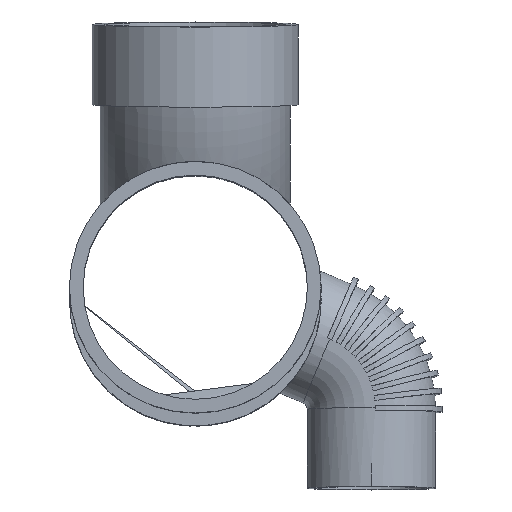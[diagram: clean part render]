
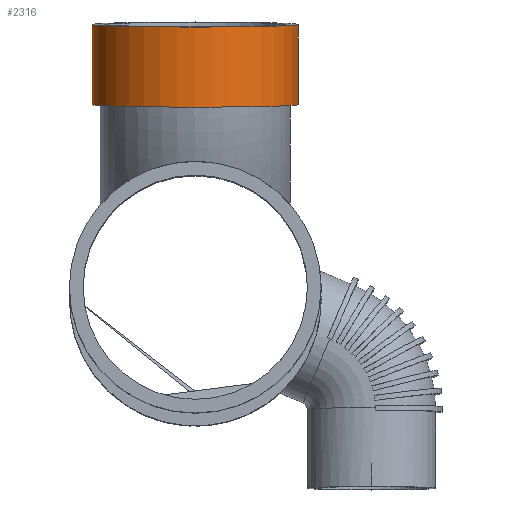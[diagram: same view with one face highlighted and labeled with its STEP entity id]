
A CAD part, top view. The second image highlights one B-rep face of the part: STEP entity #2316.
In plain terms, the highlighted cylindrical face has radius 45 mm (diameter 90 mm), a full revolution.
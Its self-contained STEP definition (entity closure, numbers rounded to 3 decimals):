
#196=LINE('',#4422,#311);
#197=LINE('',#4426,#312);
#198=LINE('',#4430,#313);
#199=LINE('',#4434,#314);
#200=LINE('',#4438,#315);
#311=VECTOR('',#3033,45.);
#312=VECTOR('',#3036,1.);
#313=VECTOR('',#3039,1.);
#314=VECTOR('',#3042,1.);
#315=VECTOR('',#3045,1.);
#429=CIRCLE('',#2529,45.);
#434=CIRCLE('',#2545,45.);
#435=CIRCLE('',#2546,45.);
#436=CIRCLE('',#2547,45.);
#437=CIRCLE('',#2548,45.);
#438=CIRCLE('',#2549,45.);
#527=CYLINDRICAL_SURFACE('',#2544,45.);
#620=FACE_OUTER_BOUND('',#771,.T.);
#771=EDGE_LOOP('',(#1830,#1831,#1832,#1833,#1834,#1835,#1836,#1837,#1838,
#1839,#1840,#1841));
#1026=VERTEX_POINT('',#4379);
#1037=VERTEX_POINT('',#4421);
#1038=VERTEX_POINT('',#4423);
#1039=VERTEX_POINT('',#4425);
#1040=VERTEX_POINT('',#4427);
#1041=VERTEX_POINT('',#4429);
#1042=VERTEX_POINT('',#4431);
#1043=VERTEX_POINT('',#4433);
#1044=VERTEX_POINT('',#4435);
#1045=VERTEX_POINT('',#4437);
#1297=EDGE_CURVE('',#1026,#1026,#429,.T.);
#1317=EDGE_CURVE('',#1026,#1037,#196,.T.);
#1318=EDGE_CURVE('',#1038,#1037,#434,.F.);
#1319=EDGE_CURVE('',#1039,#1038,#197,.F.);
#1320=EDGE_CURVE('',#1040,#1039,#435,.F.);
#1321=EDGE_CURVE('',#1040,#1041,#198,.F.);
#1322=EDGE_CURVE('',#1042,#1041,#436,.F.);
#1323=EDGE_CURVE('',#1043,#1042,#199,.F.);
#1324=EDGE_CURVE('',#1044,#1043,#437,.F.);
#1325=EDGE_CURVE('',#1044,#1045,#200,.F.);
#1326=EDGE_CURVE('',#1037,#1045,#438,.F.);
#1830=ORIENTED_EDGE('',*,*,#1297,.T.);
#1831=ORIENTED_EDGE('',*,*,#1317,.T.);
#1832=ORIENTED_EDGE('',*,*,#1318,.F.);
#1833=ORIENTED_EDGE('',*,*,#1319,.F.);
#1834=ORIENTED_EDGE('',*,*,#1320,.F.);
#1835=ORIENTED_EDGE('',*,*,#1321,.T.);
#1836=ORIENTED_EDGE('',*,*,#1322,.F.);
#1837=ORIENTED_EDGE('',*,*,#1323,.F.);
#1838=ORIENTED_EDGE('',*,*,#1324,.F.);
#1839=ORIENTED_EDGE('',*,*,#1325,.T.);
#1840=ORIENTED_EDGE('',*,*,#1326,.F.);
#1841=ORIENTED_EDGE('',*,*,#1317,.F.);
#2316=ADVANCED_FACE('',(#620),#527,.T.);
#2529=AXIS2_PLACEMENT_3D('',#4380,#2986,#2987);
#2544=AXIS2_PLACEMENT_3D('',#4420,#3031,#3032);
#2545=AXIS2_PLACEMENT_3D('',#4424,#3034,#3035);
#2546=AXIS2_PLACEMENT_3D('',#4428,#3037,#3038);
#2547=AXIS2_PLACEMENT_3D('',#4432,#3040,#3041);
#2548=AXIS2_PLACEMENT_3D('',#4436,#3043,#3044);
#2549=AXIS2_PLACEMENT_3D('',#4439,#3046,#3047);
#2986=DIRECTION('center_axis',(0.,1.,0.026));
#2987=DIRECTION('ref_axis',(0.,0.026,-1.));
#3031=DIRECTION('center_axis',(0.,-1.,-0.026));
#3032=DIRECTION('ref_axis',(0.,0.026,-1.));
#3033=DIRECTION('',(0.,1.,0.026));
#3034=DIRECTION('center_axis',(0.,-1.,-0.026));
#3035=DIRECTION('ref_axis',(0.,-0.026,1.));
#3036=DIRECTION('',(0.,-1.,-0.026));
#3037=DIRECTION('center_axis',(0.,-1.,-0.026));
#3038=DIRECTION('ref_axis',(0.,-0.026,1.));
#3039=DIRECTION('',(0.,-1.,-0.026));
#3040=DIRECTION('center_axis',(0.,-1.,-0.026));
#3041=DIRECTION('ref_axis',(0.,-0.026,1.));
#3042=DIRECTION('',(0.,-1.,-0.026));
#3043=DIRECTION('center_axis',(0.,-1.,-0.026));
#3044=DIRECTION('ref_axis',(0.,-0.026,1.));
#3045=DIRECTION('',(0.,-1.,-0.026));
#3046=DIRECTION('center_axis',(0.,-1.,-0.026));
#3047=DIRECTION('ref_axis',(0.,-0.026,1.));
#4379=CARTESIAN_POINT('',(0.,78.795,47.079));
#4380=CARTESIAN_POINT('Origin',(0.,79.973,2.094));
#4420=CARTESIAN_POINT('Origin',(0.,114.961,3.01));
#4421=CARTESIAN_POINT('',(0.,113.783,47.995));
#4422=CARTESIAN_POINT('',(0.,113.783,47.995));
#4423=CARTESIAN_POINT('',(-45.,114.96,3.015));
#4424=CARTESIAN_POINT('Origin',(0.,114.961,3.01));
#4425=CARTESIAN_POINT('',(-45.,104.964,2.754));
#4426=CARTESIAN_POINT('',(-45.,114.96,3.015));
#4427=CARTESIAN_POINT('',(-45.,104.964,2.744));
#4428=CARTESIAN_POINT('Origin',(0.,104.964,2.749));
#4429=CARTESIAN_POINT('',(-45.,114.961,3.005));
#4430=CARTESIAN_POINT('',(-45.,114.961,3.005));
#4431=CARTESIAN_POINT('',(45.,114.961,3.005));
#4432=CARTESIAN_POINT('Origin',(0.,114.961,3.01));
#4433=CARTESIAN_POINT('',(45.,104.964,2.744));
#4434=CARTESIAN_POINT('',(45.,114.961,3.005));
#4435=CARTESIAN_POINT('',(45.,104.964,2.754));
#4436=CARTESIAN_POINT('Origin',(0.,104.964,2.749));
#4437=CARTESIAN_POINT('',(45.,114.96,3.015));
#4438=CARTESIAN_POINT('',(45.,114.96,3.015));
#4439=CARTESIAN_POINT('Origin',(0.,114.961,3.01));
